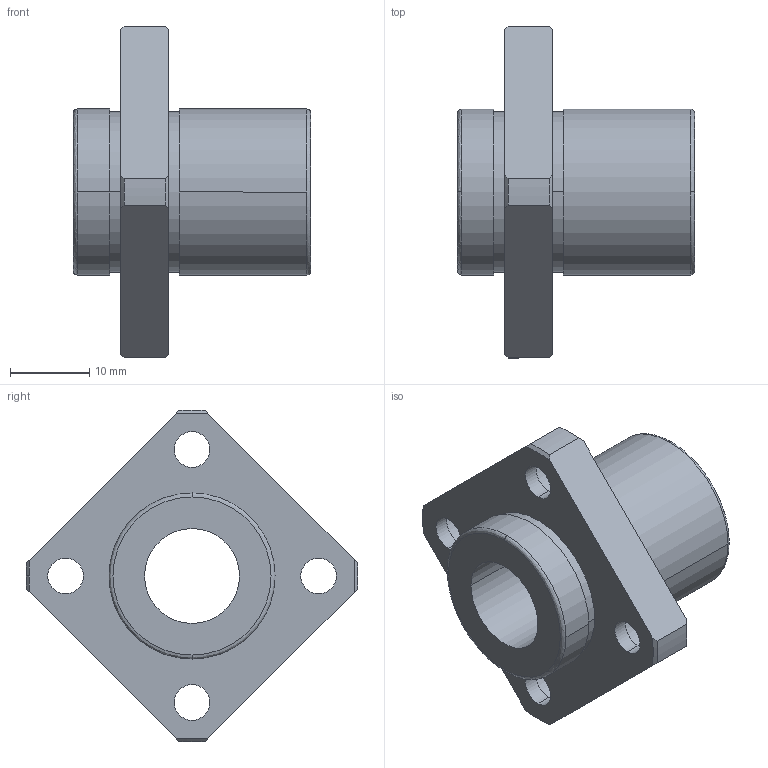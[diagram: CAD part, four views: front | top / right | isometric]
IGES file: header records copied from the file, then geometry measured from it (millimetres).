
Start section: 3D InterOp IGES (Version 21 0 1), Spatial Corp. Copyright (c) 1999-2007.
Global section: file name: NFIS-12VUU.igs; native system: Spatial Corp.; preprocessor: 3D InterOp GENERIC/IGES 3.0; author: Noname; organization: Noname; date: 20220308.112340; units: millimetre
Bounding box: 30 x 41.99 x 41.98 mm (x, y, z)
Surface area: 5663.7 mm2 (no closed solid volume)
Topology: 0 solids, 0 shells, 59 faces, 290 edges, 290 vertices
Faces by surface type: revolution 45, extrusion 14
